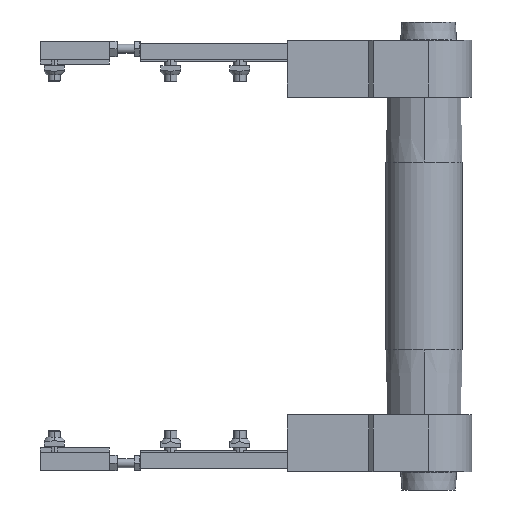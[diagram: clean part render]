
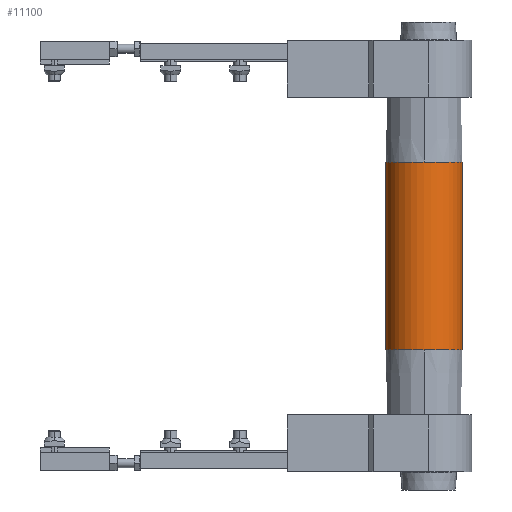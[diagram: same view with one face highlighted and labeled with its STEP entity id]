
A CAD part, front view. The second image highlights one B-rep face of the part: STEP entity #11100.
In plain terms, the highlighted cylindrical face has radius 25 mm (diameter 50 mm), a partial arc.
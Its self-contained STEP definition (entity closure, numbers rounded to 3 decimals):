
#371 = DIRECTION ( 'NONE',  ( 0., 1., 0. ) ) ;
#486 = CARTESIAN_POINT ( 'NONE',  ( 160., 0., 122.5 ) ) ;
#589 = ORIENTED_EDGE ( 'NONE', *, *, #8361, .F. ) ;
#687 = CIRCLE ( 'NONE', #2652, 25. ) ;
#844 = DIRECTION ( 'NONE',  ( 0., 1., 0. ) ) ;
#902 = VERTEX_POINT ( 'NONE', #3174 ) ;
#1868 = VERTEX_POINT ( 'NONE', #14525 ) ;
#2084 = AXIS2_PLACEMENT_3D ( 'NONE', #13434, #8830, #5439 ) ;
#2533 = VERTEX_POINT ( 'NONE', #14671 ) ;
#2652 = AXIS2_PLACEMENT_3D ( 'NONE', #3914, #13992, #5040 ) ;
#2678 = CARTESIAN_POINT ( 'NONE',  ( 210., 0., 61.25 ) ) ;
#2820 = EDGE_CURVE ( 'NONE', #1868, #8473, #10894, .T. ) ;
#2949 = CARTESIAN_POINT ( 'NONE',  ( 185., 0., 122.5 ) ) ;
#3050 = ORIENTED_EDGE ( 'NONE', *, *, #3175, .F. ) ;
#3174 = CARTESIAN_POINT ( 'NONE',  ( 185., -25., -61.25 ) ) ;
#3175 = EDGE_CURVE ( 'NONE', #12677, #902, #12663, .T. ) ;
#3510 = EDGE_CURVE ( 'NONE', #10724, #12677, #3782, .T. ) ;
#3782 = LINE ( 'NONE', #10306, #14442 ) ;
#3914 = CARTESIAN_POINT ( 'NONE',  ( 185., 0., -61.25 ) ) ;
#5040 = DIRECTION ( 'NONE',  ( 0., 1., 0. ) ) ;
#5073 = DIRECTION ( 'NONE',  ( 1., 0., 0. ) ) ;
#5439 = DIRECTION ( 'NONE',  ( 0., 1., 0. ) ) ;
#5600 = FACE_OUTER_BOUND ( 'NONE', #14322, .T. ) ;
#5822 = CARTESIAN_POINT ( 'NONE',  ( 185., 0., 61.25 ) ) ;
#7070 = AXIS2_PLACEMENT_3D ( 'NONE', #5822, #10525, #371 ) ;
#7278 = DIRECTION ( 'NONE',  ( 0., 0., -1. ) ) ;
#7580 = CYLINDRICAL_SURFACE ( 'NONE', #14185, 25. ) ;
#8068 = ORIENTED_EDGE ( 'NONE', *, *, #10528, .T. ) ;
#8321 = ORIENTED_EDGE ( 'NONE', *, *, #10120, .T. ) ;
#8361 = EDGE_CURVE ( 'NONE', #902, #8473, #687, .T. ) ;
#8473 = VERTEX_POINT ( 'NONE', #13748 ) ;
#8641 = DIRECTION ( 'NONE',  ( 0., 0., -1. ) ) ;
#8830 = DIRECTION ( 'NONE',  ( 0., 0., -1. ) ) ;
#9826 = CARTESIAN_POINT ( 'NONE',  ( 185., 0., 61.25 ) ) ;
#10120 = EDGE_CURVE ( 'NONE', #10724, #2533, #12740, .T. ) ;
#10199 = CARTESIAN_POINT ( 'NONE',  ( 210., 0., -61.25 ) ) ;
#10306 = CARTESIAN_POINT ( 'NONE',  ( 210., 0., 122.5 ) ) ;
#10351 = DIRECTION ( 'NONE',  ( 0., 0., -1. ) ) ;
#10525 = DIRECTION ( 'NONE',  ( 0., 0., -1. ) ) ;
#10528 = EDGE_CURVE ( 'NONE', #2533, #1868, #14165, .T. ) ;
#10533 = VECTOR ( 'NONE', #11780, 1000. ) ;
#10724 = VERTEX_POINT ( 'NONE', #2678 ) ;
#10894 = LINE ( 'NONE', #486, #10533 ) ;
#11100 = ADVANCED_FACE ( 'NONE', ( #5600 ), #7580, .T. ) ;
#11780 = DIRECTION ( 'NONE',  ( 0., 0., -1. ) ) ;
#12663 = CIRCLE ( 'NONE', #2084, 25. ) ;
#12677 = VERTEX_POINT ( 'NONE', #10199 ) ;
#12725 = ORIENTED_EDGE ( 'NONE', *, *, #3510, .F. ) ;
#12740 = CIRCLE ( 'NONE', #12947, 25. ) ;
#12947 = AXIS2_PLACEMENT_3D ( 'NONE', #9826, #8641, #844 ) ;
#13434 = CARTESIAN_POINT ( 'NONE',  ( 185., 0., -61.25 ) ) ;
#13673 = ORIENTED_EDGE ( 'NONE', *, *, #2820, .T. ) ;
#13748 = CARTESIAN_POINT ( 'NONE',  ( 160., 0., -61.25 ) ) ;
#13992 = DIRECTION ( 'NONE',  ( 0., 0., -1. ) ) ;
#14165 = CIRCLE ( 'NONE', #7070, 25. ) ;
#14185 = AXIS2_PLACEMENT_3D ( 'NONE', #2949, #7278, #5073 ) ;
#14322 = EDGE_LOOP ( 'NONE', ( #8068, #13673, #589, #3050, #12725, #8321 ) ) ;
#14442 = VECTOR ( 'NONE', #10351, 1000. ) ;
#14525 = CARTESIAN_POINT ( 'NONE',  ( 160., 0., 61.25 ) ) ;
#14671 = CARTESIAN_POINT ( 'NONE',  ( 185., -25., 61.25 ) ) ;
